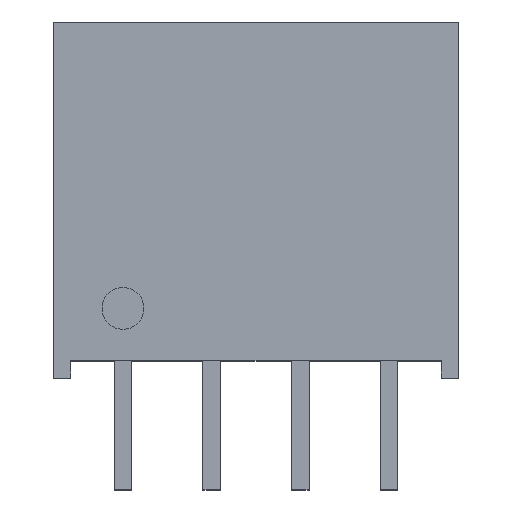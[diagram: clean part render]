
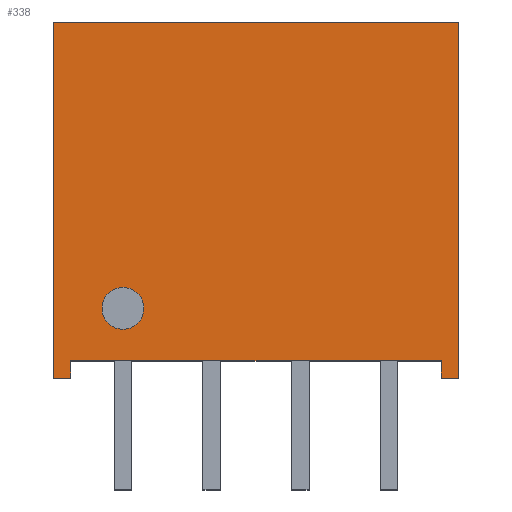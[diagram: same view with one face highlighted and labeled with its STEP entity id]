
A CAD part, top view. The second image highlights one B-rep face of the part: STEP entity #338.
In plain terms, the highlighted planar face has unit normal (0, 0, 1).
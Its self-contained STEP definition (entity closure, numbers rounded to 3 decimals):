
#1 = CARTESIAN_POINT ( 'NONE',  ( -5.8, -0.5, 3.75 ) ) ;
#6 = LINE ( 'NONE', #160, #729 ) ;
#21 = CARTESIAN_POINT ( 'NONE',  ( -3.81, 1.5, 3.75 ) ) ;
#32 = DIRECTION ( 'NONE',  ( 0., 1., 0. ) ) ;
#40 = VERTEX_POINT ( 'NONE', #975 ) ;
#56 = VERTEX_POINT ( 'NONE', #364 ) ;
#58 = CARTESIAN_POINT ( 'NONE',  ( -5.3, 0., 3.75 ) ) ;
#59 = VERTEX_POINT ( 'NONE', #66 ) ;
#61 = EDGE_CURVE ( 'NONE', #830, #403, #811, .T. ) ;
#66 = CARTESIAN_POINT ( 'NONE',  ( 5.8, 9.7, 3.75 ) ) ;
#82 = VECTOR ( 'NONE', #455, 1000. ) ;
#97 = VERTEX_POINT ( 'NONE', #388 ) ;
#102 = VECTOR ( 'NONE', #905, 1000. ) ;
#119 = VERTEX_POINT ( 'NONE', #211 ) ;
#159 = VECTOR ( 'NONE', #603, 1000. ) ;
#160 = CARTESIAN_POINT ( 'NONE',  ( 5.8, -0.5, 3.75 ) ) ;
#165 = DIRECTION ( 'NONE',  ( 1., 0., 0. ) ) ;
#181 = DIRECTION ( 'NONE',  ( 0., 0., 1. ) ) ;
#196 = EDGE_CURVE ( 'NONE', #318, #654, #300, .T. ) ;
#204 = CIRCLE ( 'NONE', #590, 0.6 ) ;
#211 = CARTESIAN_POINT ( 'NONE',  ( -5.8, 9.7, 3.75 ) ) ;
#235 = EDGE_CURVE ( 'NONE', #403, #318, #826, .T. ) ;
#258 = VECTOR ( 'NONE', #165, 1000. ) ;
#273 = ORIENTED_EDGE ( 'NONE', *, *, #385, .T. ) ;
#274 = ORIENTED_EDGE ( 'NONE', *, *, #61, .T. ) ;
#297 = ORIENTED_EDGE ( 'NONE', *, *, #608, .T. ) ;
#300 = LINE ( 'NONE', #676, #82 ) ;
#317 = ORIENTED_EDGE ( 'NONE', *, *, #883, .F. ) ;
#318 = VERTEX_POINT ( 'NONE', #626 ) ;
#338 = ADVANCED_FACE ( 'NONE', ( #787, #779 ), #496, .T. ) ;
#341 = CARTESIAN_POINT ( 'NONE',  ( -5.3, 0., 3.75 ) ) ;
#358 = ORIENTED_EDGE ( 'NONE', *, *, #715, .T. ) ;
#364 = CARTESIAN_POINT ( 'NONE',  ( -5.3, -0.5, 3.75 ) ) ;
#385 = EDGE_CURVE ( 'NONE', #56, #830, #481, .T. ) ;
#388 = CARTESIAN_POINT ( 'NONE',  ( -3.21, 1.5, 3.75 ) ) ;
#389 = DIRECTION ( 'NONE',  ( 0., 1., 0. ) ) ;
#403 = VERTEX_POINT ( 'NONE', #717 ) ;
#449 = ORIENTED_EDGE ( 'NONE', *, *, #196, .T. ) ;
#453 = DIRECTION ( 'NONE',  ( -1., 0., 0. ) ) ;
#455 = DIRECTION ( 'NONE',  ( 1., 0., 0. ) ) ;
#481 = LINE ( 'NONE', #341, #824 ) ;
#484 = CARTESIAN_POINT ( 'NONE',  ( -5.3, 0., 3.75 ) ) ;
#488 = EDGE_LOOP ( 'NONE', ( #317 ) ) ;
#496 = PLANE ( 'NONE',  #854 ) ;
#510 = ORIENTED_EDGE ( 'NONE', *, *, #919, .T. ) ;
#563 = ORIENTED_EDGE ( 'NONE', *, *, #235, .T. ) ;
#569 = ORIENTED_EDGE ( 'NONE', *, *, #635, .T. ) ;
#590 = AXIS2_PLACEMENT_3D ( 'NONE', #21, #606, #611 ) ;
#599 = LINE ( 'NONE', #926, #969 ) ;
#603 = DIRECTION ( 'NONE',  ( 0., -1., 0. ) ) ;
#606 = DIRECTION ( 'NONE',  ( 0., 0., 1. ) ) ;
#608 = EDGE_CURVE ( 'NONE', #119, #40, #756, .T. ) ;
#611 = DIRECTION ( 'NONE',  ( 1., 0., 0. ) ) ;
#612 = CARTESIAN_POINT ( 'NONE',  ( -5.3, -0.5, 3.75 ) ) ;
#622 = VECTOR ( 'NONE', #664, 1000. ) ;
#626 = CARTESIAN_POINT ( 'NONE',  ( 5.3, -0.5, 3.75 ) ) ;
#635 = EDGE_CURVE ( 'NONE', #40, #56, #832, .T. ) ;
#654 = VERTEX_POINT ( 'NONE', #974 ) ;
#664 = DIRECTION ( 'NONE',  ( 1., 0., 0. ) ) ;
#676 = CARTESIAN_POINT ( 'NONE',  ( 5.3, -0.5, 3.75 ) ) ;
#682 = CARTESIAN_POINT ( 'NONE',  ( 5.3, 0., 3.75 ) ) ;
#715 = EDGE_CURVE ( 'NONE', #654, #59, #6, .T. ) ;
#717 = CARTESIAN_POINT ( 'NONE',  ( 5.3, 0., 3.75 ) ) ;
#729 = VECTOR ( 'NONE', #389, 1000. ) ;
#756 = LINE ( 'NONE', #1, #102 ) ;
#779 = FACE_OUTER_BOUND ( 'NONE', #895, .T. ) ;
#787 = FACE_BOUND ( 'NONE', #488, .T. ) ;
#793 = DIRECTION ( 'NONE',  ( 1., 0., 0. ) ) ;
#811 = LINE ( 'NONE', #58, #622 ) ;
#824 = VECTOR ( 'NONE', #32, 1000. ) ;
#826 = LINE ( 'NONE', #682, #159 ) ;
#830 = VERTEX_POINT ( 'NONE', #484 ) ;
#832 = LINE ( 'NONE', #612, #258 ) ;
#854 = AXIS2_PLACEMENT_3D ( 'NONE', #945, #181, #793 ) ;
#883 = EDGE_CURVE ( 'NONE', #97, #97, #204, .T. ) ;
#895 = EDGE_LOOP ( 'NONE', ( #563, #449, #358, #510, #297, #569, #273, #274 ) ) ;
#905 = DIRECTION ( 'NONE',  ( 0., -1., 0. ) ) ;
#919 = EDGE_CURVE ( 'NONE', #59, #119, #599, .T. ) ;
#926 = CARTESIAN_POINT ( 'NONE',  ( 5.8, 9.7, 3.75 ) ) ;
#945 = CARTESIAN_POINT ( 'NONE',  ( 5.3, -0.5, 3.75 ) ) ;
#969 = VECTOR ( 'NONE', #453, 1000. ) ;
#974 = CARTESIAN_POINT ( 'NONE',  ( 5.8, -0.5, 3.75 ) ) ;
#975 = CARTESIAN_POINT ( 'NONE',  ( -5.8, -0.5, 3.75 ) ) ;
